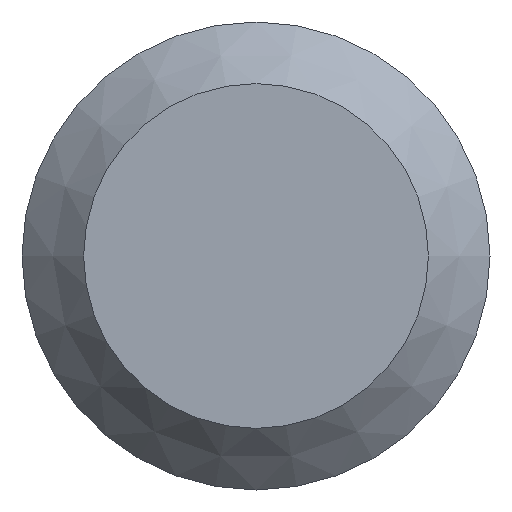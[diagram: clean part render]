
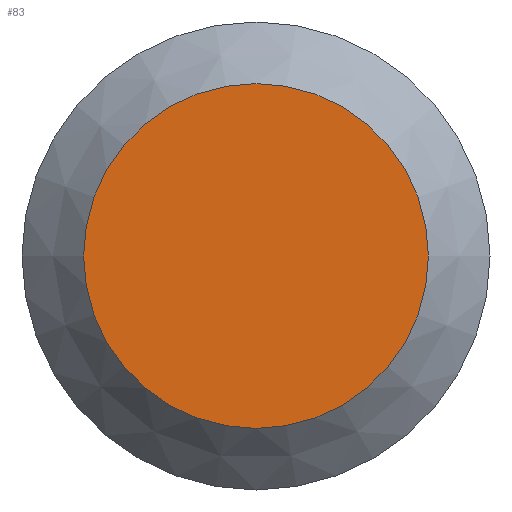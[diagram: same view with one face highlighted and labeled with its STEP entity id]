
A CAD part, left-side view. The second image highlights one B-rep face of the part: STEP entity #83.
In plain terms, the highlighted planar face has unit normal (-1, 0, 0).
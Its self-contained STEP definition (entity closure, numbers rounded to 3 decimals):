
#16=PLANE('',#117);
#24=FACE_OUTER_BOUND('',#30,.T.);
#30=EDGE_LOOP('',(#75));
#40=CIRCLE('',#109,3.5);
#45=VERTEX_POINT('',#150);
#51=EDGE_CURVE('',#45,#45,#40,.T.);
#75=ORIENTED_EDGE('',*,*,#51,.F.);
#83=ADVANCED_FACE('',(#24),#16,.T.);
#109=AXIS2_PLACEMENT_3D('',#152,#125,#126);
#117=AXIS2_PLACEMENT_3D('',#166,#144,#145);
#125=DIRECTION('center_axis',(1.,0.,0.));
#126=DIRECTION('ref_axis',(0.,0.,-1.));
#144=DIRECTION('center_axis',(-1.,0.,0.));
#145=DIRECTION('ref_axis',(0.,0.,1.));
#150=CARTESIAN_POINT('',(-15.662,-3.5,0.));
#152=CARTESIAN_POINT('Origin',(-15.662,0.,0.));
#166=CARTESIAN_POINT('Origin',(-15.662,3.5,0.));
